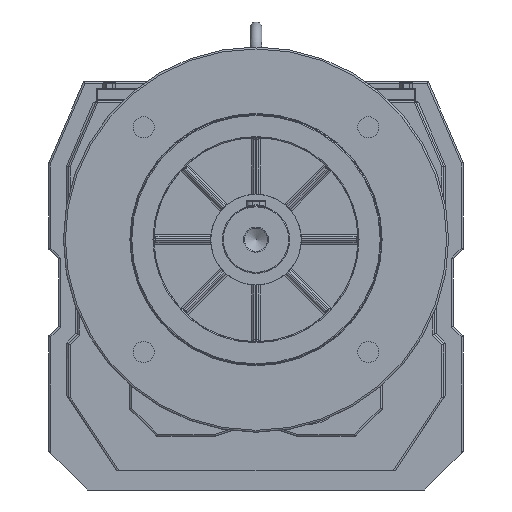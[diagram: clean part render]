
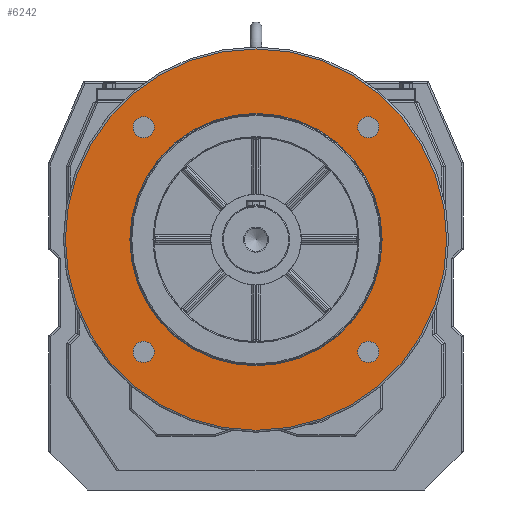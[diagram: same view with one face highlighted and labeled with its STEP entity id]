
A CAD part, front view. The second image highlights one B-rep face of the part: STEP entity #6242.
In plain terms, the highlighted planar face has unit normal (0, -1, 0).
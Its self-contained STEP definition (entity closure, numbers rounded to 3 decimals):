
#105=CARTESIAN_POINT('',(-52.836,-127.5,188.336));
#106=VERTEX_POINT('',#105);
#107=CARTESIAN_POINT('',(-58.336,-127.5,188.336));
#108=DIRECTION('',(0.0,1.0,0.0));
#109=DIRECTION('',(1.0,0.0,0.0));
#110=AXIS2_PLACEMENT_3D('',#107,#108,#109);
#111=CIRCLE('',#110,5.5);
#112=EDGE_CURVE('',#106,#106,#111,.T.);
#154=CARTESIAN_POINT('',(-52.836,-127.5,71.664));
#155=VERTEX_POINT('',#154);
#156=CARTESIAN_POINT('',(-58.336,-127.5,71.664));
#157=DIRECTION('',(0.0,1.0,0.0));
#158=DIRECTION('',(1.0,0.0,0.0));
#159=AXIS2_PLACEMENT_3D('',#156,#157,#158);
#160=CIRCLE('',#159,5.5);
#161=EDGE_CURVE('',#155,#155,#160,.T.);
#203=CARTESIAN_POINT('',(63.836,-127.5,71.664));
#204=VERTEX_POINT('',#203);
#205=CARTESIAN_POINT('',(58.336,-127.5,71.664));
#206=DIRECTION('',(0.0,1.0,0.0));
#207=DIRECTION('',(1.0,0.0,0.0));
#208=AXIS2_PLACEMENT_3D('',#205,#206,#207);
#209=CIRCLE('',#208,5.5);
#210=EDGE_CURVE('',#204,#204,#209,.T.);
#252=CARTESIAN_POINT('',(63.836,-127.5,188.336));
#253=VERTEX_POINT('',#252);
#254=CARTESIAN_POINT('',(58.336,-127.5,188.336));
#255=DIRECTION('',(0.0,1.0,0.0));
#256=DIRECTION('',(1.0,0.0,0.0));
#257=AXIS2_PLACEMENT_3D('',#254,#255,#256);
#258=CIRCLE('',#257,5.5);
#259=EDGE_CURVE('',#253,#253,#258,.T.);
#6196=CARTESIAN_POINT('',(0.0,-127.5,229.0));
#6197=VERTEX_POINT('',#6196);
#6198=CARTESIAN_POINT('',(0.0,-127.5,130.));
#6199=DIRECTION('',(0.0,1.0,0.0));
#6200=DIRECTION('',(0.0,0.0,-1.0));
#6201=AXIS2_PLACEMENT_3D('',#6198,#6199,#6200);
#6202=CIRCLE('',#6201,99.);
#6203=EDGE_CURVE('',#6197,#6197,#6202,.T.);
#6211=CARTESIAN_POINT('',(0.0,-127.5,212.5));
#6212=DIRECTION('',(0.0,-1.0,0.0));
#6213=DIRECTION('',(0.0,0.0,-1.0));
#6214=AXIS2_PLACEMENT_3D('',#6211,#6212,#6213);
#6215=PLANE('',#6214);
#6216=ORIENTED_EDGE('',*,*,#6203,.F.);
#6217=EDGE_LOOP('',(#6216));
#6218=FACE_OUTER_BOUND('',#6217,.T.);
#6219=ORIENTED_EDGE('',*,*,#112,.T.);
#6220=EDGE_LOOP('',(#6219));
#6221=FACE_BOUND('',#6220,.T.);
#6222=ORIENTED_EDGE('',*,*,#161,.T.);
#6223=EDGE_LOOP('',(#6222));
#6224=FACE_BOUND('',#6223,.T.);
#6225=ORIENTED_EDGE('',*,*,#210,.T.);
#6226=EDGE_LOOP('',(#6225));
#6227=FACE_BOUND('',#6226,.T.);
#6228=ORIENTED_EDGE('',*,*,#259,.T.);
#6229=EDGE_LOOP('',(#6228));
#6230=FACE_BOUND('',#6229,.T.);
#6231=CARTESIAN_POINT('',(0.,-127.5,195.5));
#6232=VERTEX_POINT('',#6231);
#6233=CARTESIAN_POINT('',(0.0,-127.5,130.));
#6234=DIRECTION('',(0.0,-1.0,0.0));
#6235=DIRECTION('',(0.0,0.0,-1.0));
#6236=AXIS2_PLACEMENT_3D('',#6233,#6234,#6235);
#6237=CIRCLE('',#6236,65.5);
#6238=EDGE_CURVE('',#6232,#6232,#6237,.T.);
#6239=ORIENTED_EDGE('',*,*,#6238,.F.);
#6240=EDGE_LOOP('',(#6239));
#6241=FACE_BOUND('',#6240,.T.);
#6242=ADVANCED_FACE('',(#6218,#6221,#6224,#6227,#6230,#6241),#6215,.T.);
